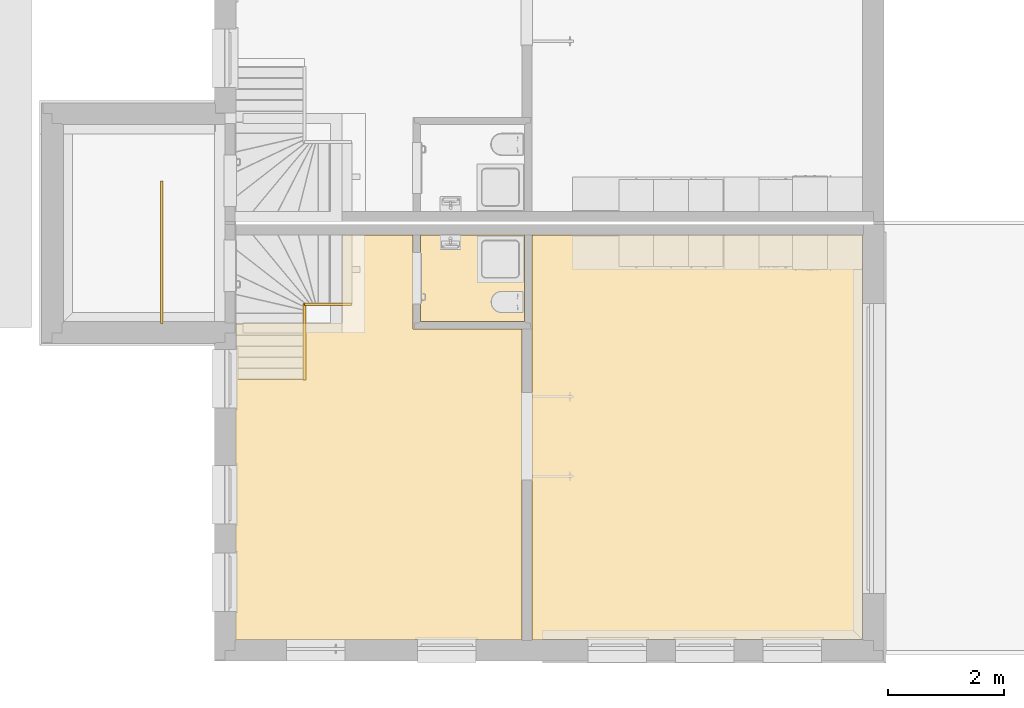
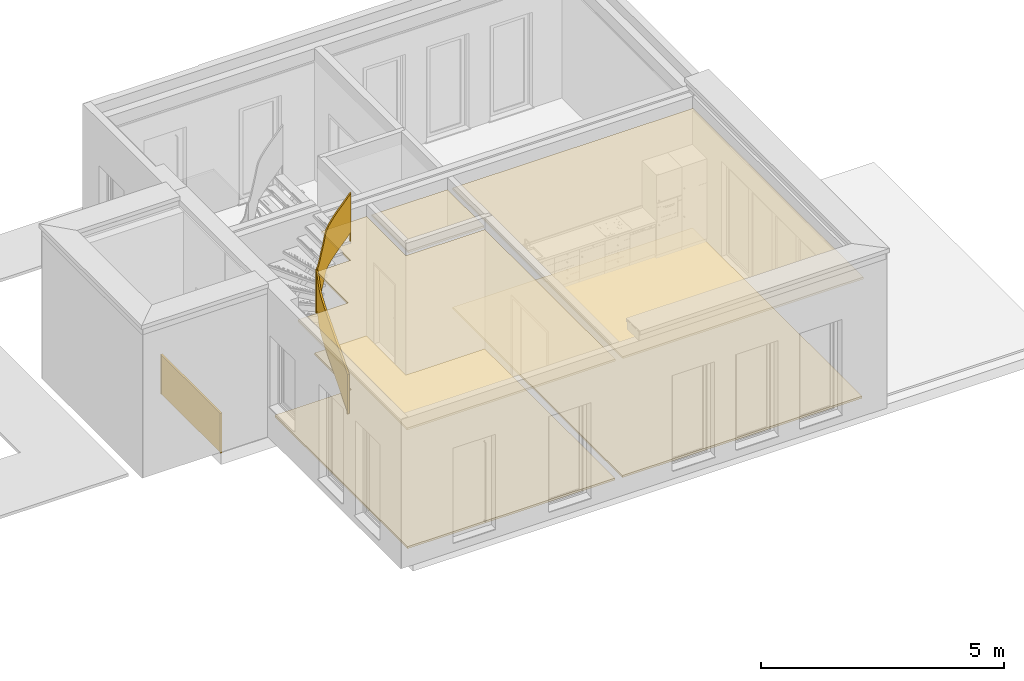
# One storey, part 10 of 28: 4 coverings, 2 railings.
"""IFC4 building model written with IfcOpenShell, lengths in metres."""

from ifc_helpers import new_model, entity, si_unit, converted_unit, derived_unit, direction, frame, origin_with_axes, place, context, subcontext, project, spatial, triangles, material, constituent, constituent_set, type_object, element, save


model = new_model("IFC4")

# Units and contexts
model_context = context("Model", 3, precision=1e-05, world=origin_with_axes(), true_north=direction((-0.526213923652, 0.850352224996)))
body_context = subcontext(model_context, "Body", "Model", "MODEL_VIEW")
ifc_project = project(units=[si_unit("LENGTHUNIT", "METRE"), si_unit("AREAUNIT", "SQUARE_METRE"), si_unit("VOLUMEUNIT", "CUBIC_METRE"), converted_unit("PLANEANGLEUNIT", "DEGREE", entity("IfcPlaneAngleMeasure", 0.0174532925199), si_unit("PLANEANGLEUNIT", "RADIAN"), dimensions=[0, 0, 0, 0, 0, 0, 0]), si_unit("SOLIDANGLEUNIT", "STERADIAN"), converted_unit("TIMEUNIT", "Year", entity("IfcTimeMeasure", 31556926.0), si_unit("TIMEUNIT", "SECOND"), dimensions=[0, 0, 1, 0, 0, 0, 0]), si_unit("MASSUNIT", "GRAM", prefix="KILO"), si_unit("THERMODYNAMICTEMPERATUREUNIT", "DEGREE_CELSIUS"), si_unit("LUMINOUSINTENSITYUNIT", "LUMEN"), si_unit("ENERGYUNIT", "JOULE", prefix="MEGA"), derived_unit("THERMALCONDUCTANCEUNIT", [(si_unit("POWERUNIT", "WATT"), 1), (si_unit("LENGTHUNIT", "METRE"), -1), (si_unit("THERMODYNAMICTEMPERATUREUNIT", "KELVIN"), -1)]), derived_unit("SPECIFICHEATCAPACITYUNIT", [(si_unit("ENERGYUNIT", "JOULE"), 1), (si_unit("MASSUNIT", "GRAM", prefix="KILO"), -1), (si_unit("THERMODYNAMICTEMPERATUREUNIT", "KELVIN"), -1)]), derived_unit("MASSDENSITYUNIT", [(si_unit("MASSUNIT", "GRAM", prefix="KILO"), 1), (si_unit("VOLUMEUNIT", "CUBIC_METRE"), -1)])], contexts=[model_context])

# Site, building, storey, space
site_placement = place(None, origin_with_axes())
site = spatial("IfcSite", under=ifc_project, at=site_placement, Name="Gelände", CompositionType="ELEMENT")
building_placement = place(site_placement, origin_with_axes())
building = spatial("IfcBuilding", under=site, at=building_placement, Name="Haus vom Nikolaus", CompositionType="ELEMENT")
storey_placement = place(building_placement, origin_with_axes())
storey = spatial("IfcBuildingStorey", under=building, at=storey_placement, Name="EG", CompositionType="ELEMENT", Elevation=0.0)
space_placement = place(storey_placement, frame((-3.09538684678, 5.36483190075, 0.0), z_axis=(0.0, 0.0, 1.0), x_axis=(1.0, 0.0, 0.0)))
space = spatial("IfcSpace", under=storey, at=space_placement, Name="EG", CompositionType="ELEMENT")

# Railings
ifc_material_1 = material(Name="Metall, Stahl lackiert")
ifc_constituent_1 = constituent(ifc_material_1, Name="Component 1 in Geländer-Pfosten-001")
ifc_constituent_2 = constituent(ifc_material_1, Name="Component 1 in Geländer-Pfosten-001")
ifc_constituent_3 = constituent(ifc_material_1, Name="Component 1 in Geländer-Handlauf-001")
ifc_material_2 = material(Name="Glas, Normalglas")
ifc_constituent_4 = constituent(ifc_material_2, Name="Component 1 in Geländer-Paneel-001")
ifc_constituent_set_1 = constituent_set(constituents=[ifc_constituent_1, ifc_constituent_2, ifc_constituent_3, ifc_constituent_4])
railing_type = type_object("IfcRailingType", Name="Geländerart", PredefinedType="NOTDEFINED")
railing_1_placement = place(space_placement, frame((2.075, 2.79500017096, -0.3), z_axis=(0.0, 0.0, 1.0), x_axis=(1.0, 0.0, 0.0)))
element("IfcRailing", 1, at=railing_1_placement, inside=space, type_object=railing_type, material=ifc_constituent_set_1, Name="Geländer-004", PredefinedType="NOTDEFINED", context=body_context, shape_type="Tessellation", body=[
    triangles([(0.0225, -0.0075, 1.0), (-0.0225, -0.0075, 0.0), (0.0225, -0.0075, 0.0), (-0.0225, -0.0075, 1.0), (0.0225, 0.0075, 0.0), (-0.0225, 0.0075, 0.0), (0.0225, 0.0075, 1.0), (-0.0225, 0.0075, 1.0)], [[1, 2, 3], [1, 4, 2], [5, 2, 6], [5, 3, 2], [7, 3, 5], [7, 1, 3], [7, 4, 1], [7, 8, 4], [4, 6, 2], [4, 8, 6], [8, 5, 6], [8, 7, 5]], closed=True),
    triangles([(0.0225, -2.4475, 1.0), (-0.0225, -2.4475, 0.0), (0.0225, -2.4475, 0.0), (-0.0225, -2.4475, 1.0), (0.0225, -2.4325, 0.0), (-0.0225, -2.4325, 0.0), (0.0225, -2.4325, 1.0), (-0.0225, -2.4325, 1.0)], [[1, 2, 3], [1, 4, 2], [5, 2, 6], [5, 3, 2], [7, 3, 5], [7, 1, 3], [7, 4, 1], [7, 8, 4], [4, 6, 2], [4, 8, 6], [8, 5, 6], [8, 7, 5]], closed=True),
    triangles([(-0.0225, -2.44, 0.985), (-0.0225, 0.0, 1.0), (-0.0225, 0.0, 0.985), (-0.0225, -2.44, 1.0), (0.0225, 0.0, 0.985), (0.0225, 0.0, 1.0), (0.0225, -2.44, 0.985), (0.0225, -2.44, 1.0)], [[1, 2, 3], [1, 4, 2], [5, 2, 6], [5, 3, 2], [7, 3, 5], [7, 1, 3], [7, 4, 1], [7, 8, 4], [4, 6, 2], [4, 8, 6], [8, 5, 6], [8, 7, 5]], closed=True),
    triangles([(0.01, -2.44, 0.0), (0.01, 0.0, 0.985), (0.01, -2.44, 0.985), (0.01, 0.0, 0.0), (-0.01, 0.0, 0.985), (-0.01, -2.44, 0.985), (-0.01, -2.44, 0.0), (-0.01, 0.0, 0.0)], [[1, 2, 3], [1, 4, 2], [5, 3, 2], [5, 6, 3], [6, 1, 3], [6, 7, 1], [1, 8, 4], [1, 7, 8], [4, 5, 2], [4, 8, 5], [5, 7, 6], [5, 8, 7]], closed=True),
])
ifc_constituent_5 = constituent(ifc_material_1, Name="Component 1 in Geländer-Pfosten-001")
ifc_constituent_6 = constituent(ifc_material_1, Name="Component 1 in Geländer-Pfosten-001")
ifc_constituent_7 = constituent(ifc_material_1, Name="Component 1 in Geländer-Pfosten-001")
ifc_constituent_8 = constituent(ifc_material_1, Name="Component 1 in Geländer-Handlauf-001")
ifc_constituent_9 = constituent(ifc_material_2, Name="Component 1 in Geländer-Paneel-001")
ifc_constituent_10 = constituent(ifc_material_1, Name="Component 1 in Geländer-Handlauf-001")
ifc_constituent_11 = constituent(ifc_material_2, Name="Component 1 in Geländer-Paneel-001")
ifc_constituent_set_2 = constituent_set(constituents=[ifc_constituent_5, ifc_constituent_6, ifc_constituent_7, ifc_constituent_8, ifc_constituent_9, ifc_constituent_10, ifc_constituent_11])
railing_2_placement = place(space_placement, frame((4.53538446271, -0.785198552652, 0.2), z_axis=(0.0, 0.0, 1.0), x_axis=(1.0, 0.0, 0.0)))
element("IfcRailing", 2, at=railing_2_placement, inside=space, type_object=railing_type, material=ifc_constituent_set_2, Name="Geländer-003", PredefinedType="NOTDEFINED", context=body_context, shape_type="Tessellation", body=[
    triangles([(-0.0221156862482, 0.167698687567, 1.22623247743), (0.0228843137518, 0.167698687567, 0.217647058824), (-0.0221156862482, 0.167698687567, 0.217647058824), (0.0228843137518, 0.167698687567, 1.22623247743), (-0.0221156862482, 0.152698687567, 0.217647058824), (0.0228843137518, 0.152698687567, 0.217647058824), (-0.0221156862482, 0.152698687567, 1.20906164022), (0.0228843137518, 0.152698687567, 1.20906164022)], [[1, 2, 3], [1, 4, 2], [5, 2, 6], [5, 3, 2], [7, 3, 5], [7, 1, 3], [7, 4, 1], [7, 8, 4], [8, 2, 4], [2, 8, 6], [8, 5, 6], [8, 7, 5]], closed=True),
    triangles([(-0.0190794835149, 1.47898639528, 3.05488871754), (0.0228843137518, 1.46769876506, 1.95882352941), (-0.0221156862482, 1.46769876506, 1.95882352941), (-0.0221156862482, 1.45269876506, 1.95882352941), (0.0228843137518, 1.45269876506, 1.95882352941), (-0.0190794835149, 1.46398639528, 3.03828516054), (0.0198481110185, 1.45641113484, 3.07528367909), (0.0198481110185, 1.44141113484, 3.05868012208)], [[1, 2, 3], [4, 2, 5], [4, 3, 2], [1, 3, 6], [7, 2, 1], [7, 5, 2], [8, 4, 5], [6, 3, 4], [8, 1, 6], [1, 8, 7], [8, 5, 7], [6, 4, 8]], closed=True),
    triangles([(0.807500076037, 1.48269881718, 4.70858541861), (0.807500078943, 1.43769881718, 3.48235294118), (0.807500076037, 1.48269881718, 3.48235294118), (0.807500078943, 1.43769881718, 4.70858541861), (0.792500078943, 1.43769881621, 3.48235294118), (0.792500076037, 1.48269881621, 3.48235294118), (0.792500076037, 1.48269881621, 4.69141458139), (0.792500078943, 1.43769881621, 4.69141458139)], [[1, 2, 3], [1, 4, 2], [3, 5, 6], [5, 3, 2], [7, 3, 6], [7, 1, 3], [8, 1, 7], [1, 8, 4], [8, 2, 4], [2, 8, 5], [8, 6, 5], [8, 7, 6]], closed=True),
    triangles([(-0.0221156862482, 1.42414016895, 2.95348580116), (0.0228843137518, 1.47319547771, 3.04925529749), (0.0228843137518, 1.42414016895, 2.95348580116), (-0.0221156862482, 1.47708951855, 3.05685753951), (-0.0221156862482, 1.46214578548, 3.06058554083), (0.0228843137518, 1.45825174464, 3.0529832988), (0.0228843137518, 1.30098379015, 2.58518521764), (0.0228843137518, 1.34465327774, 2.65493017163), (0.0228843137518, 1.33046412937, 2.65983797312), (0.0228843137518, 1.35358863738, 2.7373564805), (0.0228843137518, 1.36804933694, 2.73335897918), (0.0228843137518, 1.41002097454, 2.95882352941), (0.0228843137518, 1.31452220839, 2.57862957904), (0.0228843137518, 1.25734850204, 2.4801020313), (0.0228843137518, 1.24470440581, 2.48819885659), (0.0228843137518, 1.19165868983, 2.38678134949), (0.0228843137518, 1.11085293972, 2.30588235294), (0.0228843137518, 1.17956512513, 2.39566027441), (0.0228843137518, 1.1225377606, 2.29646937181), (0.0228843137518, 1.02880457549, 2.1858611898), (0.0228843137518, 1.01750654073, 2.19573059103), (0.0228843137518, 0.93194474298, 2.07828216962), (0.0228843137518, 0.160198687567, 1.21764705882), (0.0228843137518, 0.920722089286, 2.08823529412), (0.0228843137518, 0.171495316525, 1.20777861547), (-0.0221156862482, 1.36804933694, 2.73335897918), (-0.0221156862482, 1.41002097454, 2.95882352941), (-0.0221156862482, 1.34465327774, 2.65493017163), (-0.0221156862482, 1.33046412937, 2.65983797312), (-0.0221156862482, 1.30098379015, 2.58518521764), (-0.0221156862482, 1.25734850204, 2.4801020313), (-0.0221156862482, 1.24470440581, 2.48819885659), (-0.0221156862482, 1.19165868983, 2.38678134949), (-0.0221156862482, 1.1225377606, 2.29646937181), (-0.0221156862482, 1.11085293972, 2.30588235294), (-0.0221156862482, 1.17956512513, 2.39566027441), (-0.0221156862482, 1.02880457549, 2.1858611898), (-0.0221156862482, 0.93194474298, 2.07828216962), (-0.0221156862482, 1.01750654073, 2.19573059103), (-0.0221156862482, 0.920722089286, 2.08823529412), (-0.0221156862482, 0.160198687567, 1.21764705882), (-0.0221156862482, 0.171495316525, 1.20777861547), (-0.0221156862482, 1.35358863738, 2.7373564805), (-0.0221156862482, 1.31452220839, 2.57862957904)], [[1, 2, 3], [2, 1, 4], [5, 2, 4], [2, 5, 6], [7, 8, 9], [3, 10, 11], [3, 6, 12], [11, 9, 8], [8, 7, 13], [13, 7, 14], [14, 15, 16], [17, 16, 18], [19, 17, 20], [20, 21, 22], [23, 22, 24], [22, 23, 25], [21, 20, 17], [24, 22, 21], [16, 17, 19], [18, 16, 15], [15, 14, 7], [10, 3, 12], [9, 11, 10], [6, 3, 2], [3, 26, 1], [3, 11, 26], [27, 5, 1], [1, 5, 4], [28, 29, 26], [30, 31, 32], [33, 32, 31], [34, 35, 33], [36, 33, 35], [37, 35, 34], [38, 39, 37], [39, 38, 40], [41, 38, 42], [35, 37, 39], [41, 40, 38], [26, 43, 1], [32, 33, 36], [44, 30, 28], [31, 30, 44], [29, 28, 30], [43, 26, 29], [27, 1, 43], [12, 6, 27], [27, 6, 5], [27, 10, 12], [27, 43, 10], [43, 9, 10], [43, 29, 9], [29, 7, 9], [29, 30, 7], [30, 15, 7], [30, 32, 15], [32, 18, 15], [32, 36, 18], [36, 17, 18], [36, 35, 17], [35, 21, 17], [35, 39, 21], [39, 24, 21], [39, 40, 24], [40, 23, 24], [40, 41, 23], [25, 41, 42], [25, 23, 41], [22, 42, 38], [22, 25, 42], [20, 38, 37], [20, 22, 38], [19, 37, 34], [19, 20, 37], [16, 34, 33], [16, 19, 34], [14, 33, 31], [14, 16, 33], [13, 31, 44], [13, 14, 31], [8, 44, 28], [8, 13, 44], [11, 28, 26], [11, 8, 28]], closed=True),
    triangles([(-0.00961568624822, 0.920722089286, 1.08823529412), (-0.00961568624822, 0.160198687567, 0.217647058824), (-0.00961568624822, 0.160198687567, 1.20264705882), (-0.00961568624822, 0.920722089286, 2.07323529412), (0.0103843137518, 0.160198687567, 1.20264705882), (0.0103843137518, 0.920722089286, 2.07323529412), (0.0103843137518, 0.920722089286, 1.08823529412), (0.0103843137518, 0.160198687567, 0.217647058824)], [[1, 2, 3], [1, 3, 4], [5, 4, 3], [5, 6, 4], [6, 1, 4], [6, 7, 1], [1, 8, 2], [1, 7, 8], [2, 5, 3], [2, 8, 5], [8, 7, 5], [5, 7, 6]], closed=True),
    triangles([(-0.00961568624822, 1.01750654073, 2.18073059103), (-0.00961568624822, 1.01750654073, 1.19573059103), (-0.00961568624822, 0.920722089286, 2.07323529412), (-0.00961568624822, 0.920722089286, 1.08823529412), (0.0103843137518, 0.920722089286, 2.07323529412), (0.0103843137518, 1.01750654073, 2.18073059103), (0.0103843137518, 1.01750654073, 1.19573059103), (0.0103843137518, 0.920722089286, 1.08823529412)], [[1, 2, 3], [4, 3, 2], [5, 1, 3], [5, 6, 1], [6, 2, 1], [6, 7, 2], [2, 8, 4], [2, 7, 8], [4, 5, 3], [4, 8, 5], [5, 7, 6], [5, 8, 7]], closed=True),
    triangles([(-0.00961568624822, 1.11085293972, 2.29088235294), (-0.00961568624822, 1.11085293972, 1.30588235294), (-0.00961568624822, 1.01750654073, 2.18073059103), (-0.00961568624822, 1.01750654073, 1.19573059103), (0.0103843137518, 1.01750654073, 2.18073059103), (0.0103843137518, 1.11085293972, 2.29088235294), (0.0103843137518, 1.11085293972, 1.30588235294), (0.0103843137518, 1.01750654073, 1.19573059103)], [[1, 2, 3], [4, 3, 2], [5, 1, 3], [5, 6, 1], [6, 2, 1], [6, 7, 2], [2, 8, 4], [2, 7, 8], [4, 5, 3], [4, 8, 5], [5, 7, 6], [5, 8, 7]], closed=True),
    triangles([(-0.00961568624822, 1.17956512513, 2.38066027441), (-0.00961568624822, 1.17956512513, 1.39566027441), (-0.00961568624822, 1.11085293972, 2.29088235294), (-0.00961568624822, 1.11085293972, 1.30588235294), (0.0103843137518, 1.11085293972, 2.29088235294), (0.0103843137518, 1.17956512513, 2.38066027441), (0.0103843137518, 1.17956512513, 1.39566027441), (0.0103843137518, 1.11085293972, 1.30588235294)], [[1, 2, 3], [4, 3, 2], [5, 1, 3], [5, 6, 1], [6, 2, 1], [6, 7, 2], [2, 8, 4], [2, 7, 8], [4, 5, 3], [4, 8, 5], [5, 7, 6], [5, 8, 7]], closed=True),
    triangles([(-0.00961568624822, 1.24470440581, 2.47319885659), (-0.00961568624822, 1.24470440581, 1.48819885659), (-0.00961568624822, 1.17956512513, 2.38066027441), (-0.00961568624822, 1.17956512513, 1.39566027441), (0.0103843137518, 1.17956512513, 2.38066027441), (0.0103843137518, 1.24470440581, 2.47319885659), (0.0103843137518, 1.24470440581, 1.48819885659), (0.0103843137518, 1.17956512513, 1.39566027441)], [[1, 2, 3], [4, 3, 2], [5, 1, 3], [5, 6, 1], [6, 2, 1], [6, 7, 2], [2, 8, 4], [2, 7, 8], [4, 5, 3], [4, 8, 5], [5, 7, 6], [5, 8, 7]], closed=True),
    triangles([(-0.00961568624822, 1.30098379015, 2.57018521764), (-0.00961568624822, 1.30098379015, 1.58518521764), (-0.00961568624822, 1.24470440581, 2.47319885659), (-0.00961568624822, 1.24470440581, 1.48819885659), (0.0103843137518, 1.24470440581, 2.47319885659), (0.0103843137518, 1.30098379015, 2.57018521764), (0.0103843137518, 1.30098379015, 1.58518521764), (0.0103843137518, 1.24470440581, 1.48819885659)], [[1, 2, 3], [4, 3, 2], [5, 1, 3], [5, 6, 1], [6, 2, 1], [6, 7, 2], [2, 8, 4], [2, 7, 8], [4, 5, 3], [4, 8, 5], [5, 7, 6], [5, 8, 7]], closed=True),
    triangles([(-0.00961568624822, 1.33046412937, 2.64483797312), (-0.00961568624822, 1.33046412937, 1.65983797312), (-0.00961568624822, 1.30098379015, 2.57018521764), (-0.00961568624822, 1.30098379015, 1.58518521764), (0.0103843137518, 1.30098379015, 2.57018521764), (0.0103843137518, 1.33046412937, 2.64483797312), (0.0103843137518, 1.33046412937, 1.65983797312), (0.0103843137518, 1.30098379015, 1.58518521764)], [[1, 2, 3], [4, 3, 2], [5, 1, 3], [5, 6, 1], [6, 2, 1], [6, 7, 2], [7, 4, 2], [4, 7, 8], [4, 5, 3], [4, 8, 5], [5, 7, 6], [5, 8, 7]], closed=True),
    triangles([(-0.00961568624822, 1.35358863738, 2.7223564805), (-0.00961568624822, 1.35358863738, 1.7373564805), (-0.00961568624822, 1.33046412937, 2.64483797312), (-0.00961568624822, 1.33046412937, 1.65983797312), (0.0103843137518, 1.33046412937, 2.64483797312), (0.0103843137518, 1.35358863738, 2.7223564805), (0.0103843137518, 1.35358863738, 1.7373564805), (0.0103843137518, 1.33046412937, 1.65983797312)], [[1, 2, 3], [4, 3, 2], [5, 1, 3], [5, 6, 1], [6, 2, 1], [6, 7, 2], [2, 8, 4], [2, 7, 8], [4, 5, 3], [4, 8, 5], [5, 7, 6], [5, 8, 7]], closed=True),
    triangles([(-0.00961568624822, 1.41002097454, 2.94382352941), (-0.00961568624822, 1.41002097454, 1.95882352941), (-0.00961568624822, 1.35358863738, 2.7223564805), (-0.00961568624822, 1.35358863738, 1.7373564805), (0.0103843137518, 1.35358863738, 2.7223564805), (0.0103843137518, 1.41002097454, 2.94382352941), (0.0103843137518, 1.41002097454, 1.95882352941), (0.0103843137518, 1.35358863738, 1.7373564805)], [[1, 2, 3], [4, 3, 2], [5, 1, 3], [5, 6, 1], [6, 2, 1], [6, 7, 2], [2, 8, 4], [2, 7, 8], [4, 5, 3], [4, 8, 5], [5, 7, 6], [5, 8, 7]], closed=True),
    triangles([(-0.00961568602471, 1.41002097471, 1.95882352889), (-0.00961568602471, 1.4100209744, 2.94382352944), (-0.00961568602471, 1.47019876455, 2.07630717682), (-0.00961568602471, 1.47019876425, 3.06130717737), (0.0103843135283, 1.4501987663, 2.03726166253), (0.0103843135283, 1.41002097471, 1.95882352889), (0.0103843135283, 1.4100209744, 2.94382352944), (0.0103843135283, 1.450198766, 3.02226166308)], [[1, 2, 3], [4, 3, 2], [5, 1, 3], [1, 5, 6], [1, 7, 2], [1, 6, 7], [8, 2, 7], [2, 8, 4], [8, 3, 4], [8, 5, 3], [5, 7, 6], [5, 8, 7]], closed=True),
    triangles([(0.11194664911, 1.43769877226, 3.40996675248), (0.0756048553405, 1.43769876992, 3.31552751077), (0.0902445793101, 1.43769877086, 3.31225967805), (0.0536695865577, 1.4376987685, 3.21774214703), (0.0388815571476, 1.43769876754, 3.11735199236), (0.0681844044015, 1.43769876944, 3.21391749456), (0.0246607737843, 1.43769876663, 3.12214561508), (0.0172750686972, 1.43769876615, 3.05917934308), (0.0973355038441, 1.43769877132, 3.41336325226), (0.204409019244, 1.43769877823, 3.82855958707), (0.148167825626, 1.4376987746, 3.62267649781), (0.162818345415, 1.43769877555, 3.61944213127), (0.189735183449, 1.43769877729, 3.83167672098), (0.220824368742, 1.43769877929, 3.90117963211), (0.243433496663, 1.43769878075, 3.96999133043), (0.206350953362, 1.43769877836, 3.9051834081), (0.229607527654, 1.43769877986, 3.97596563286), (0.284339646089, 1.43769878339, 4.07655883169), (0.29714592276, 1.43769878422, 4.06871041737), (0.349965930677, 1.43769878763, 4.17220887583), (0.431465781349, 1.43769879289, 4.25534440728), (0.362143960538, 1.43769878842, 4.16344479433), (0.419738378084, 1.43769879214, 4.26470588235), (0.512854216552, 1.43769879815, 4.37501201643), (0.524152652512, 1.43769879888, 4.36514238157), (0.609869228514, 1.43769880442, 4.48235294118), (0.811296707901, 1.43769881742, 4.69013155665), (0.621082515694, 1.43769880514, 4.47238909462), (0.800000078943, 1.43769881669, 4.7), (0.00233133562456, 1.43769876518, 3.0620265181), (0.0133810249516, 1.4826987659, 3.04869514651), (-0.00156270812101, 1.48269876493, 3.05154232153), (0.0388815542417, 1.48269876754, 3.11735199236), (0.0681844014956, 1.48269876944, 3.21391749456), (0.0902445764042, 1.48269877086, 3.31225967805), (0.111946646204, 1.48269877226, 3.40996675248), (0.162818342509, 1.48269877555, 3.61944213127), (0.204409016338, 1.48269877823, 3.82855958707), (0.220824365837, 1.48269877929, 3.90117963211), (0.243433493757, 1.48269878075, 3.96999133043), (0.297145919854, 1.48269878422, 4.06871041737), (0.362143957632, 1.48269878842, 4.16344479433), (0.431465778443, 1.48269879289, 4.25534440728), (0.524152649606, 1.48269879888, 4.36514238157), (0.621082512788, 1.48269880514, 4.47238909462), (0.811296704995, 1.48269881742, 4.69013155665), (0.800000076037, 1.48269881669, 4.7), (0.609869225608, 1.48269880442, 4.48235294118), (0.512854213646, 1.48269879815, 4.37501201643), (0.419738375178, 1.48269879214, 4.26470588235), (0.349965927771, 1.48269878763, 4.17220887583), (0.284339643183, 1.48269878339, 4.07655883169), (0.229607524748, 1.48269877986, 3.97596563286), (0.206350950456, 1.48269877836, 3.9051834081), (0.189735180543, 1.48269877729, 3.83167672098), (0.14816782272, 1.4826987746, 3.62267649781), (0.0973355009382, 1.48269877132, 3.41336325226), (0.0756048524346, 1.48269876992, 3.31552751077), (0.0536695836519, 1.4826987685, 3.21774214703), (0.0246607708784, 1.48269876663, 3.12214561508)], [[1, 2, 3], [4, 5, 6], [7, 8, 5], [2, 1, 9], [10, 11, 12], [11, 10, 13], [14, 13, 10], [15, 16, 14], [16, 15, 17], [18, 17, 15], [18, 19, 20], [21, 20, 22], [23, 21, 24], [24, 25, 26], [27, 26, 28], [28, 26, 25], [26, 27, 29], [25, 24, 21], [20, 21, 23], [22, 20, 19], [19, 18, 15], [13, 14, 16], [12, 11, 1], [9, 1, 11], [4, 3, 2], [3, 4, 6], [7, 5, 4], [8, 7, 30], [30, 31, 8], [30, 32, 31], [5, 8, 33], [33, 8, 31], [6, 33, 34], [6, 5, 33], [3, 34, 35], [3, 6, 34], [1, 35, 36], [1, 3, 35], [1, 37, 12], [37, 1, 36], [10, 37, 38], [10, 12, 37], [10, 39, 14], [39, 10, 38], [14, 40, 15], [40, 14, 39], [15, 41, 19], [41, 15, 40], [19, 42, 22], [42, 19, 41], [21, 42, 43], [21, 22, 42], [25, 43, 44], [25, 21, 43], [25, 45, 28], [45, 25, 44], [27, 45, 46], [27, 28, 45], [47, 27, 46], [47, 29, 27], [47, 26, 29], [47, 48, 26], [48, 24, 26], [48, 49, 24], [49, 23, 24], [49, 50, 23], [50, 20, 23], [50, 51, 20], [52, 20, 51], [20, 52, 18], [53, 18, 52], [18, 53, 17], [53, 16, 17], [53, 54, 16], [55, 16, 54], [16, 55, 13], [55, 11, 13], [55, 56, 11], [57, 11, 56], [11, 57, 9], [58, 9, 57], [9, 58, 2], [58, 4, 2], [58, 59, 4], [60, 4, 59], [4, 60, 7], [60, 30, 7], [30, 60, 32], [33, 59, 34], [35, 58, 36], [60, 31, 32], [59, 33, 60], [36, 58, 57], [36, 56, 37], [42, 51, 43], [51, 41, 52], [40, 52, 41], [50, 43, 51], [49, 43, 50], [48, 44, 49], [44, 48, 45], [43, 49, 44], [46, 48, 47], [38, 37, 56], [46, 45, 48], [38, 55, 39], [41, 51, 42], [53, 40, 54], [55, 38, 56], [52, 40, 53], [54, 39, 55], [39, 54, 40], [56, 36, 57], [58, 35, 59], [34, 59, 35], [60, 33, 31]], closed=True),
    triangles([(-0.00961568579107, 1.47019876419, 2.02986072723), (-0.00961568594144, 1.47019876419, 3.01486072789), (0.0246607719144, 1.4701987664, 2.12214561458), (0.024660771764, 1.4701987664, 3.10714561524), (0.0103843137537, 1.45019876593, 2.08370811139), (0.0246607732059, 1.45019876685, 2.12214561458), (0.0103843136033, 1.45019876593, 3.06870811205), (0.0246607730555, 1.45019876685, 3.10714561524)], [[1, 2, 3], [4, 3, 2], [1, 3, 5], [6, 5, 3], [5, 7, 2], [1, 5, 2], [7, 4, 2], [8, 4, 7], [8, 3, 4], [8, 6, 3], [6, 7, 5], [6, 8, 7]], closed=True),
    triangles([(0.053669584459, 1.4701987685, 3.20274214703), (0.053669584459, 1.4701987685, 2.21774214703), (0.0246607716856, 1.47019876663, 3.10714561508), (0.0246607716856, 1.47019876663, 2.12214561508), (0.0536695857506, 1.4501987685, 3.20274214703), (0.0246607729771, 1.45019876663, 3.10714561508), (0.0536695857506, 1.4501987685, 2.21774214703), (0.0246607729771, 1.45019876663, 2.12214561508)], [[1, 2, 3], [4, 3, 2], [5, 3, 6], [3, 5, 1], [5, 2, 1], [5, 7, 2], [2, 8, 4], [2, 7, 8], [4, 6, 3], [4, 8, 6], [6, 7, 5], [6, 8, 7]], closed=True),
    triangles([(0.0756048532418, 1.47019876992, 3.30052751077), (0.0756048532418, 1.47019876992, 2.31552751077), (0.053669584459, 1.4701987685, 3.20274214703), (0.053669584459, 1.4701987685, 2.21774214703), (0.0756048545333, 1.45019876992, 3.30052751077), (0.0536695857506, 1.4501987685, 3.20274214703), (0.0756048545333, 1.45019876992, 2.31552751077), (0.0536695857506, 1.4501987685, 2.21774214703)], [[1, 2, 3], [4, 3, 2], [5, 3, 6], [3, 5, 1], [5, 2, 1], [5, 7, 2], [7, 4, 2], [4, 7, 8], [4, 6, 3], [4, 8, 6], [6, 7, 5], [6, 8, 7]], closed=True),
    triangles([(0.0973355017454, 1.47019877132, 3.39836325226), (0.0973355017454, 1.47019877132, 2.41336325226), (0.0756048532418, 1.47019876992, 3.30052751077), (0.0756048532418, 1.47019876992, 2.31552751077), (0.0756048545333, 1.45019876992, 3.30052751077), (0.0973355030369, 1.45019877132, 3.39836325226), (0.0973355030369, 1.45019877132, 2.41336325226), (0.0756048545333, 1.45019876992, 2.31552751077)], [[1, 2, 3], [4, 3, 2], [5, 1, 3], [5, 6, 1], [6, 2, 1], [6, 7, 2], [7, 4, 2], [4, 7, 8], [4, 5, 3], [4, 8, 5], [5, 7, 6], [5, 8, 7]], closed=True),
    triangles([(0.148167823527, 1.4701987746, 3.60767649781), (0.148167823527, 1.4701987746, 2.62267649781), (0.0973355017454, 1.47019877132, 3.39836325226), (0.0973355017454, 1.47019877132, 2.41336325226), (0.148167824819, 1.4501987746, 3.60767649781), (0.0973355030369, 1.45019877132, 3.39836325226), (0.148167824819, 1.4501987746, 2.62267649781), (0.0973355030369, 1.45019877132, 2.41336325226)], [[1, 2, 3], [4, 3, 2], [5, 3, 6], [3, 5, 1], [5, 2, 1], [5, 7, 2], [2, 8, 4], [2, 7, 8], [4, 6, 3], [4, 8, 6], [6, 7, 5], [6, 8, 7]], closed=True),
    triangles([(0.18973518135, 1.47019877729, 3.81667672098), (0.18973518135, 1.47019877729, 2.83167672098), (0.148167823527, 1.4701987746, 3.60767649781), (0.148167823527, 1.4701987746, 2.62267649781), (0.148167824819, 1.4501987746, 3.60767649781), (0.189735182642, 1.45019877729, 3.81667672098), (0.189735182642, 1.45019877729, 2.83167672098), (0.148167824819, 1.4501987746, 2.62267649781)], [[1, 2, 3], [4, 3, 2], [5, 1, 3], [5, 6, 1], [6, 2, 1], [6, 7, 2], [7, 4, 2], [4, 7, 8], [4, 5, 3], [4, 8, 5], [5, 7, 6], [5, 8, 7]], closed=True),
    triangles([(0.206350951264, 1.47019877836, 3.8901834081), (0.206350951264, 1.47019877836, 2.9051834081), (0.18973518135, 1.47019877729, 3.81667672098), (0.18973518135, 1.47019877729, 2.83167672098), (0.206350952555, 1.45019877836, 3.8901834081), (0.189735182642, 1.45019877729, 3.81667672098), (0.206350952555, 1.45019877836, 2.9051834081), (0.189735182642, 1.45019877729, 2.83167672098)], [[1, 2, 3], [4, 3, 2], [5, 3, 6], [3, 5, 1], [5, 2, 1], [5, 7, 2], [7, 4, 2], [4, 7, 8], [4, 6, 3], [4, 8, 6], [6, 7, 5], [6, 8, 7]], closed=True),
    triangles([(0.229607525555, 1.47019877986, 3.96096563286), (0.229607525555, 1.47019877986, 2.97596563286), (0.206350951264, 1.47019877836, 3.8901834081), (0.206350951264, 1.47019877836, 2.9051834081), (0.206350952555, 1.45019877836, 3.8901834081), (0.229607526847, 1.45019877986, 3.96096563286), (0.229607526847, 1.45019877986, 2.97596563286), (0.206350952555, 1.45019877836, 2.9051834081)], [[1, 2, 3], [4, 3, 2], [5, 1, 3], [5, 6, 1], [6, 2, 1], [6, 7, 2], [2, 8, 4], [2, 7, 8], [4, 5, 3], [4, 8, 5], [5, 7, 6], [5, 8, 7]], closed=True),
    triangles([(0.284339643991, 1.47019878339, 4.06155883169), (0.284339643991, 1.47019878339, 3.07655883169), (0.229607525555, 1.47019877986, 3.96096563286), (0.229607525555, 1.47019877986, 2.97596563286), (0.229607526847, 1.45019877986, 3.96096563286), (0.284339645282, 1.45019878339, 4.06155883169), (0.284339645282, 1.45019878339, 3.07655883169), (0.229607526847, 1.45019877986, 2.97596563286)], [[1, 2, 3], [4, 3, 2], [5, 1, 3], [5, 6, 1], [6, 2, 1], [6, 7, 2], [2, 8, 4], [2, 7, 8], [4, 5, 3], [4, 8, 5], [5, 7, 6], [5, 8, 7]], closed=True),
    triangles([(0.349965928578, 1.47019878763, 4.15720887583), (0.349965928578, 1.47019878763, 3.17220887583), (0.284339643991, 1.47019878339, 4.06155883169), (0.284339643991, 1.47019878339, 3.07655883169), (0.349965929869, 1.45019878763, 4.15720887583), (0.284339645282, 1.45019878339, 4.06155883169), (0.349965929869, 1.45019878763, 3.17220887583), (0.284339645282, 1.45019878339, 3.07655883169)], [[1, 2, 3], [4, 3, 2], [5, 3, 6], [3, 5, 1], [5, 2, 1], [5, 7, 2], [2, 8, 4], [2, 7, 8], [4, 6, 3], [4, 8, 6], [6, 7, 5], [6, 8, 7]], closed=True),
    triangles([(0.419738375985, 1.47019879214, 4.24970588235), (0.419738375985, 1.47019879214, 3.26470588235), (0.349965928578, 1.47019878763, 4.15720887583), (0.349965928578, 1.47019878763, 3.17220887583), (0.349965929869, 1.45019878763, 4.15720887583), (0.419738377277, 1.45019879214, 4.24970588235), (0.419738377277, 1.45019879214, 3.26470588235), (0.349965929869, 1.45019878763, 3.17220887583)], [[1, 2, 3], [4, 3, 2], [5, 1, 3], [5, 6, 1], [6, 2, 1], [6, 7, 2], [2, 8, 4], [2, 7, 8], [4, 5, 3], [4, 8, 5], [5, 7, 6], [5, 8, 7]], closed=True),
    triangles([(0.512854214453, 1.47019879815, 4.36001201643), (0.512854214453, 1.47019879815, 3.37501201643), (0.419738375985, 1.47019879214, 4.24970588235), (0.419738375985, 1.47019879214, 3.26470588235), (0.512854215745, 1.45019879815, 4.36001201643), (0.419738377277, 1.45019879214, 4.24970588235), (0.512854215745, 1.45019879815, 3.37501201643), (0.419738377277, 1.45019879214, 3.26470588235)], [[1, 2, 3], [4, 3, 2], [5, 3, 6], [3, 5, 1], [5, 2, 1], [5, 7, 2], [7, 4, 2], [4, 7, 8], [4, 6, 3], [4, 8, 6], [6, 7, 5], [6, 8, 7]], closed=True),
    triangles([(0.609869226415, 1.47019880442, 4.46735294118), (0.609869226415, 1.47019880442, 3.48235294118), (0.512854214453, 1.47019879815, 4.36001201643), (0.512854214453, 1.47019879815, 3.37501201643), (0.512854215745, 1.45019879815, 4.36001201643), (0.609869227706, 1.45019880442, 4.46735294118), (0.609869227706, 1.45019880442, 3.48235294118), (0.512854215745, 1.45019879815, 3.37501201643)], [[1, 2, 3], [4, 3, 2], [5, 1, 3], [5, 6, 1], [6, 2, 1], [6, 7, 2], [2, 8, 4], [2, 7, 8], [4, 5, 3], [4, 8, 5], [5, 7, 6], [5, 8, 7]], closed=True),
    triangles([(0.800000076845, 1.47019881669, 4.685), (0.800000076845, 1.47019881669, 3.7), (0.609869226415, 1.47019880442, 4.46735294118), (0.609869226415, 1.47019880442, 3.48235294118), (0.609869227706, 1.45019880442, 4.46735294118), (0.800000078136, 1.45019881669, 4.685), (0.800000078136, 1.45019881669, 3.7), (0.609869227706, 1.45019880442, 3.48235294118)], [[1, 2, 3], [4, 3, 2], [5, 1, 3], [5, 6, 1], [6, 2, 1], [6, 7, 2], [2, 8, 4], [2, 7, 8], [4, 5, 3], [4, 8, 5], [5, 7, 6], [5, 8, 7]], closed=True),
])

# Coverings
ifc_material_3 = material(Name="Verputz, Kalkzement")
covering_type_1 = type_object("IfcCoveringType", Name="Verputz, Kalkzement 50", PredefinedType="NOTDEFINED")
covering_1_placement = place(space_placement, frame((8.46038446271, 1.87500017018, 3.15), z_axis=(0.0, 0.0, 1.0), x_axis=(1.0, 0.0, 0.0)))
element("IfcCovering", 3, at=covering_1_placement, inside=space, type_object=covering_type_1, material=ifc_material_3, Name="Decke-014", PredefinedType="CEILING", context=body_context, shape_type="Tessellation", body=[
    triangles([(0.0, 0.0, 0.0), (0.0, -6.9999999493, 0.05), (0.0, 0.0, 0.05), (0.0, -6.9999999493, 0.0), (5.72, -6.9999999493, 0.05), (5.72, 0.0, 0.05), (5.72, 0.0, 0.0), (5.72, -6.9999999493, 0.0)], [[1, 2, 3], [1, 4, 2], [3, 5, 6], [3, 2, 5], [7, 3, 6], [7, 1, 3], [1, 8, 4], [1, 7, 8], [4, 5, 2], [4, 8, 5], [8, 6, 5], [8, 7, 6]], closed=True),
])
covering_2_placement = place(space_placement, frame((8.33538446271, 1.87500017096, 3.15), z_axis=(0.0, 0.0, 1.0), x_axis=(1.0, 0.0, 0.0)))
element("IfcCovering", 4, at=covering_2_placement, inside=space, type_object=covering_type_1, material=ifc_material_3, Name="Decke-008", PredefinedType="CEILING", context=body_context, shape_type="Tessellation", body=[
    triangles([(-1.80000000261, 0.0, 0.0), (0.0, 0.0, 0.05), (0.0, 0.0, 0.0), (-1.80000000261, 0.0, 0.05), (0.0, -1.5000000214, 0.05), (0.0, -1.5000000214, 0.0), (-1.79999996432, -1.49999994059, 0.0), (-1.79999996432, -1.49999994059, 0.05)], [[1, 2, 3], [1, 4, 2], [3, 5, 6], [3, 2, 5], [7, 3, 6], [3, 7, 1], [7, 4, 1], [7, 8, 4], [8, 2, 4], [2, 8, 5], [6, 8, 7], [6, 5, 8]], closed=True),
])
covering_3_placement = place(space_placement, frame((5.33538446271, 1.87500026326, 3.15), z_axis=(0.0, 0.0, 1.0), x_axis=(1.0, 0.0, 0.0)))
element("IfcCovering", 5, at=covering_3_placement, inside=space, type_object=covering_type_1, material=ifc_material_3, Name="Decke-008", PredefinedType="CEILING", context=body_context, shape_type="Tessellation", body=[
    triangles([(0.0, -1.20000009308, 0.05), (1.075, -1.18886248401e-07, 0.05), (0.0, 0.0, 0.05), (2.95, -6.99887899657, 0.05), (-0.8, -2.50000009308, 0.05), (-1.99999902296, -6.99887899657, 0.05), (-2.00023186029, -2.50000009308, 0.05), (1.07500010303, -1.62500010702, 0.05), (2.95, -1.62499998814, 0.05), (-0.8, -1.20000009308, 0.05), (-0.8, -2.50000009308, 0.0), (-2.00023186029, -2.50000009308, 0.0), (-1.99999902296, -6.99887899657, 0.0), (2.95, -6.99887899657, 0.0), (2.95, -1.62499998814, 0.0), (1.07500010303, -1.62500010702, 0.0), (1.075, -1.18886248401e-07, 0.0), (0.0, 0.0, 0.0), (0.0, -1.20000009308, 0.0), (-0.8, -1.20000009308, 0.0)], [[1, 2, 3], [4, 5, 6], [6, 5, 7], [8, 4, 9], [4, 8, 5], [10, 5, 1], [1, 5, 8], [2, 1, 8], [7, 11, 12], [7, 5, 11], [6, 12, 13], [6, 7, 12], [13, 4, 6], [13, 14, 4], [14, 9, 4], [14, 15, 9], [15, 8, 9], [15, 16, 8], [16, 2, 8], [16, 17, 2], [17, 3, 2], [17, 18, 3], [18, 1, 3], [18, 19, 1], [19, 10, 1], [19, 20, 10], [20, 5, 10], [20, 11, 5], [16, 15, 14], [11, 13, 12], [19, 11, 20], [13, 11, 14], [16, 11, 19], [17, 19, 18], [16, 19, 17], [11, 16, 14]], closed=True),
])
ifc_material_4 = material(Name="Belag, Kunststoff")
ifc_constituent_12 = constituent(ifc_material_4, Name="Component 1")
ifc_constituent_set_3 = constituent_set(constituents=[ifc_constituent_12])
covering_type_2 = type_object("IfcCoveringType", Name="Belag, Kunststoff 50", PredefinedType="FLOORING")
covering_4_placement = place(space_placement, frame((5.17976676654, 2.05000017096, 0.2), z_axis=(0.0, 0.0, 1.0), x_axis=(1.0, 0.0, 0.0)))
element("IfcCovering", 6, at=covering_4_placement, inside=space, type_object=covering_type_2, material=ifc_constituent_set_3, Name="Decke-008", PredefinedType="FLOORING", context=body_context, shape_type="Tessellation", body=[
    triangles([(0.0, -1.695, 0.0), (-1.82466488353, -1.695, 0.0), (-1.82438230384, -7.15499995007, 0.0), (1.23061769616, -1.8, 0.0), (3.10561769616, -7.15499995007, 0.0), (3.10561769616, -1.8, 0.0), (1.23061769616, -0.175, 0.0), (0.0, -0.175, 0.0), (-1.82438230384, -7.15499995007, -0.05), (3.10561769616, -7.15499995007, -0.05), (3.10561769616, -1.8, -0.05), (1.23061769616, -1.8, -0.05), (1.23061769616, -0.175, -0.05), (0.0, -0.175, -0.05), (0.0, -1.695, -0.05), (-1.82466488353, -1.695, -0.05)], [[1, 2, 3], [4, 5, 6], [1, 7, 8], [5, 4, 3], [1, 3, 4], [7, 1, 4], [5, 9, 10], [5, 3, 9], [6, 10, 11], [6, 5, 10], [11, 4, 6], [11, 12, 4], [12, 7, 4], [12, 13, 7], [7, 14, 8], [7, 13, 14], [14, 1, 8], [14, 15, 1], [2, 15, 16], [2, 1, 15], [3, 16, 9], [3, 2, 16], [13, 15, 14], [9, 12, 10], [10, 12, 11], [15, 9, 16], [9, 15, 12], [15, 13, 12]], closed=True),
    triangles([(3.28061769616, -1.8, 0.0), (3.28061769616, -0.175, -0.05), (3.28061769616, -1.8, -0.05), (3.28061769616, -0.175, 0.0), (8.98061769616, -0.175, -0.05), (8.98061769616, -7.15499995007, -0.05), (3.28061769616, -7.15499995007, -0.05), (3.28061769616, -7.15499995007, 0.0), (8.98061769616, -7.15499995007, 0.0), (8.98061769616, -0.175, 0.0)], [[1, 2, 3], [1, 4, 2], [5, 3, 2], [3, 6, 7], [3, 5, 6], [1, 7, 8], [1, 3, 7], [9, 1, 8], [10, 1, 9], [1, 10, 4], [5, 4, 10], [5, 2, 4], [7, 9, 8], [7, 6, 9], [10, 6, 5], [10, 9, 6]], closed=True),
])

save(model, "model.ifc")
